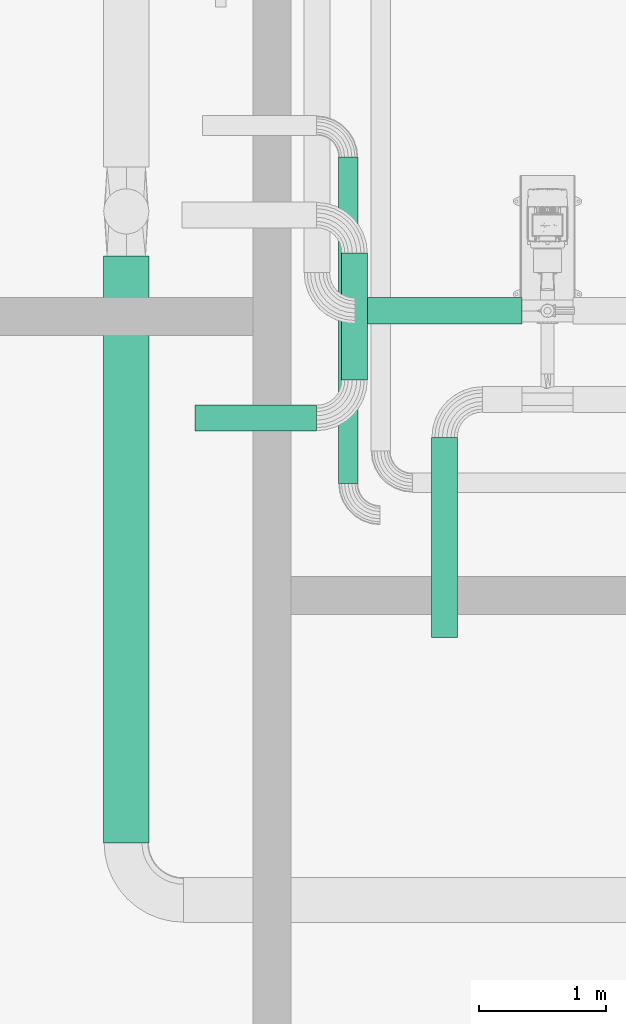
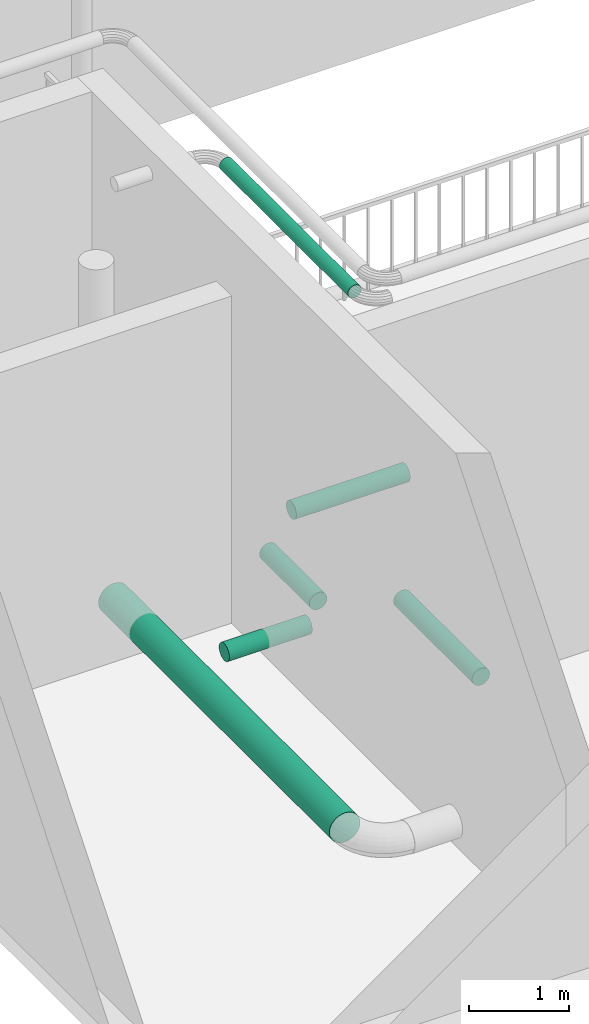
# One storey, part 4 of 28: 6 flow segments.
"""IFC2X3 building model written with IfcOpenShell, lengths in millimetres."""

from ifc_helpers import new_model, entity, si_unit, converted_unit, direction, frame, frame_2d, origin, origin_2d_with_axis, place, context, subcontext, project, spatial, circle, extrude, material, type_object, element, save


model = new_model("IFC2X3")

# Units and contexts
model_context = context("Model", 3, precision=0.01, world=origin(), true_north=direction((6.123031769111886e-17, 1.0)))
body_context = subcontext(model_context, "Body", "Model", "MODEL_VIEW")
ifc_project = project(units=[si_unit("LENGTHUNIT", "METRE", prefix="MILLI"), converted_unit("PLANEANGLEUNIT", "DEGREE", entity("IfcPlaneAngleMeasure", 0.017453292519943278), si_unit("PLANEANGLEUNIT", "RADIAN"), dimensions=[0, 0, 0, 0, 0, 0, 0]), si_unit("AREAUNIT", "SQUARE_METRE")], contexts=[model_context])

# Site, building, storey
site_placement = place(None, frame((7776.576483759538, 118.3519876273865, 0.0)))
site = spatial("IfcSite", under=ifc_project, at=site_placement, Name="Default", CompositionType="ELEMENT")
building_placement = place(site_placement, origin())
building = spatial("IfcBuilding", under=site, at=building_placement, Name="Bygning (endres i Project Information)", CompositionType="ELEMENT")
storey_placement = place(building_placement, frame((0.0, 0.0, 14000.0)))
storey = spatial("IfcBuildingStorey", under=building, at=storey_placement, Name="Plan U1 - Arbeid", CompositionType="ELEMENT", Elevation=14000.000000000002)

# Flow segments
ifc_material = material(Name="SS 2343 Rustfritt stål, prosessrør, generisk")
pipe_segment_type = type_object("IfcPipeSegmentType", Name="Pipe Types:AISI 304L Rustfritt", PredefinedType="NOTDEFINED", material=ifc_material)
flow_segment_1_placement = place(storey_placement, origin())
element("IfcFlowSegment", 1, at=flow_segment_1_placement, inside=storey, type_object=pipe_segment_type, Name="Pipe Types:AISI 304L Rustfritt", ObjectType="Pipe Types:AISI 304L Rustfritt", context=body_context, shape_type="SweptSolid", body=[
    extrude(circle(Radius=103.0, at=origin_2d_with_axis()), frame((18324.00137486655, 26047.7573057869, 203.0), z_axis=(0.0, 1.0, 0.0), x_axis=(-1.0, 0.0, 0.0)), (0.0, 0.0, 1.0), 1000.0000000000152),
])
flow_segment_2_placement = place(storey_placement, origin())
element("IfcFlowSegment", 2, at=flow_segment_2_placement, inside=storey, type_object=pipe_segment_type, Name="Pipe Types:AISI 304L Rustfritt", ObjectType="Pipe Types:AISI 304L Rustfritt", context=body_context, shape_type="SweptSolid", body=[
    extrude(circle(Radius=178.0, at=frame_2d((0.0, 2.1657342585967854e-12), x_axis=(1.0, 0.0))), frame((16524.001374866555, 22397.757305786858, 278.0), z_axis=(0.0, 1.0, 0.0), x_axis=(-1.0, 0.0, 0.0)), (0.0, 0.0, 1.0), 4629.146137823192),
])
flow_segment_3_placement = place(storey_placement, origin())
element("IfcFlowSegment", 3, at=flow_segment_3_placement, inside=storey, type_object=pipe_segment_type, Name="Pipe Types:AISI 304L Rustfritt", ObjectType="Pipe Types:AISI 304L Rustfritt", context=body_context, shape_type="SweptSolid", body=[
    extrude(circle(Radius=78.0, at=origin_2d_with_axis()), frame((18274.00137486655, 25231.757305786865, 4500.0), z_axis=(0.0, 1.0, 0.0), x_axis=(1.0, 0.0, 0.0)), (0.0, 0.0, 1.0), 2572.7587688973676),
])
flow_segment_4_placement = place(storey_placement, origin())
element("IfcFlowSegment", 4, at=flow_segment_4_placement, inside=storey, type_object=pipe_segment_type, Name="Pipe Types:AISI 304L Rustfritt", ObjectType="Pipe Types:AISI 304L Rustfritt", context=body_context, shape_type="SweptSolid", body=[
    extrude(circle(Radius=103.0, at=frame_2d((0.0, 2.1657342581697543e-12), x_axis=(1.0, 0.0))), frame((19034.001374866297, 24018.92094873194, 259.9608923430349), z_axis=(0.0, 1.0, 1.9858305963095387e-05), x_axis=(-1.0, 0.0, 0.0)), (0.0, 0.0, 1.0), 1575.8363574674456),
])
flow_segment_5_placement = place(storey_placement, origin())
element("IfcFlowSegment", 5, at=flow_segment_5_placement, inside=storey, type_object=pipe_segment_type, Name="Pipe Types:AISI 304L Rustfritt", ObjectType="Pipe Types:AISI 304L Rustfritt", context=body_context, shape_type="SweptSolid", body=[
    extrude(circle(Radius=103.0, at=origin_2d_with_axis()), frame((17064.001374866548, 25747.7573057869, 203.0), z_axis=(1.0, 0.0, 0.0), x_axis=(0.0, 1.0, 0.0)), (0.0, 0.0, 1.0), 960.0000000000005),
])
flow_segment_6_placement = place(storey_placement, origin())
element("IfcFlowSegment", 6, at=flow_segment_6_placement, inside=storey, type_object=pipe_segment_type, Name="Pipe Types:AISI 304L Rustfritt", ObjectType="Pipe Types:AISI 304L Rustfritt", context=body_context, shape_type="SweptSolid", body=[
    extrude(circle(Radius=103.0, at=frame_2d((0.0, -2.1657342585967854e-12), x_axis=(1.0, 0.0))), frame((18327.001829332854, 26593.118225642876, 985.0123799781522), z_axis=(1.0, 1.63323122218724e-06, 0.0), x_axis=(-1.63323122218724e-06, 1.0, 0.0)), (0.0, 0.0, 1.0), 1318.4785265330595),
])

save(model, "model.ifc")
